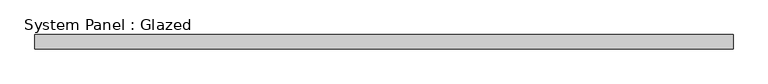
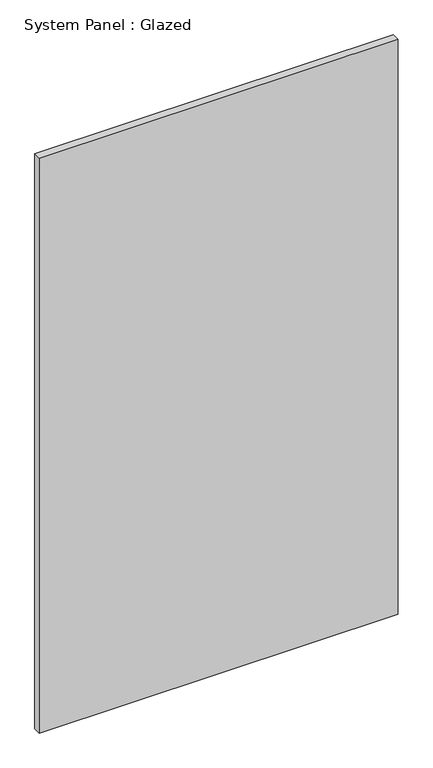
"""IFC4 building model written with IfcOpenShell, lengths in millimetres: plate geometry, System Panel : Glazed."""

from ifc_helpers import new_model, si_unit, origin, origin_with_axes, place, context, project, spatial, polyline, outline, extrude, source, transform, mapped, element, save


def system_panel_glazed_c9745aa0(model_context):
    return source(origin(), model_context, "Body", "SweptSolid", [
        extrude(outline(polyline([(607.7777778, -49.5), (-607.7777778, -49.5), (-607.7777778, -24.5), (607.7777778, -24.5), (607.7777778, -49.5)])), origin_with_axes(), (0.0, 0.0, 1.0), 2058.6),
    ])


if __name__ == "__main__":
    model = new_model("IFC4")
    model_context = context("Model", 3, world=origin())
    ifc_project = project(units=[si_unit("LENGTHUNIT", "METRE", prefix="MILLI")], contexts=[model_context])
    site = spatial("IfcSite", under=ifc_project)
    building = spatial("IfcBuilding", under=site)
    placement = place(None, origin())
    system_panel_glazed_shape = system_panel_glazed_c9745aa0(model_context)
    element("IfcPlate", 1, ObjectType="System Panel : Glazed", at=placement, inside=building, context=model_context, shape_type="MappedRepresentation", body=[
        mapped(system_panel_glazed_shape, transform((0.0, 0.0, 0.0), x_axis=(1.0, 0.0, 0.0), y_axis=(0.0, 1.0, 0.0), z_axis=(0.0, 0.0, 1.0))),
    ])
    save(model, "model.ifc")
